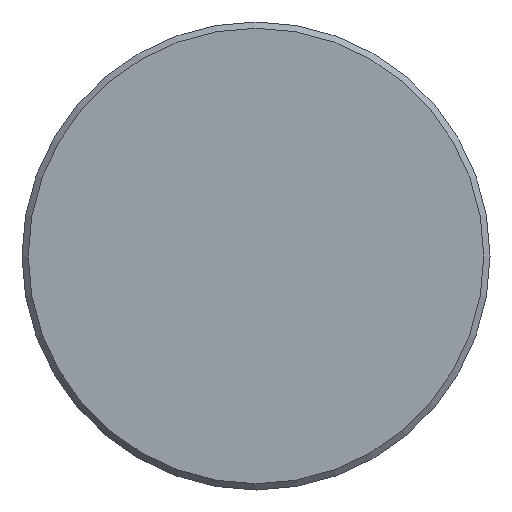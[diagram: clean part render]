
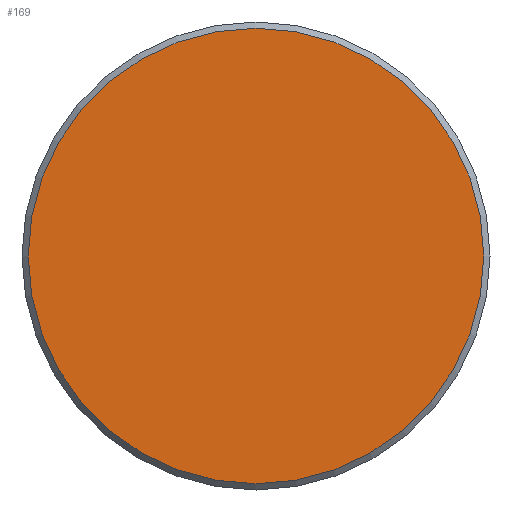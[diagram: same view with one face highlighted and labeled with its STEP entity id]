
A CAD part, front view. The second image highlights one B-rep face of the part: STEP entity #169.
In plain terms, the highlighted planar face has unit normal (0, -1, 0).
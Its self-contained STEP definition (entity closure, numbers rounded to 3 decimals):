
#169 = ADVANCED_FACE( '', ( #340 ), #341, .F. );
#340 = FACE_OUTER_BOUND( '', #540, .T. );
#341 = PLANE( '', #541 );
#540 = EDGE_LOOP( '', ( #793 ) );
#541 = AXIS2_PLACEMENT_3D( '', #794, #795, #796 );
#793 = ORIENTED_EDGE( '', *, *, #1170, .T. );
#794 = CARTESIAN_POINT( '', ( 29.2, 0., 0. ) );
#795 = DIRECTION( '', ( 0., 1., 0. ) );
#796 = DIRECTION( '', ( 0., 0., 1. ) );
#1170 = EDGE_CURVE( '', #1368, #1368, #1369, .T. );
#1368 = VERTEX_POINT( '', #1753 );
#1369 = CIRCLE( '', #1754, 29.2 );
#1753 = CARTESIAN_POINT( '', ( 0., 0., -29.2 ) );
#1754 = AXIS2_PLACEMENT_3D( '', #2055, #2056, #2057 );
#2055 = CARTESIAN_POINT( '', ( 0., 0., 0. ) );
#2056 = DIRECTION( '', ( 0., -1., 0. ) );
#2057 = DIRECTION( '', ( 0., 0., -1. ) );
